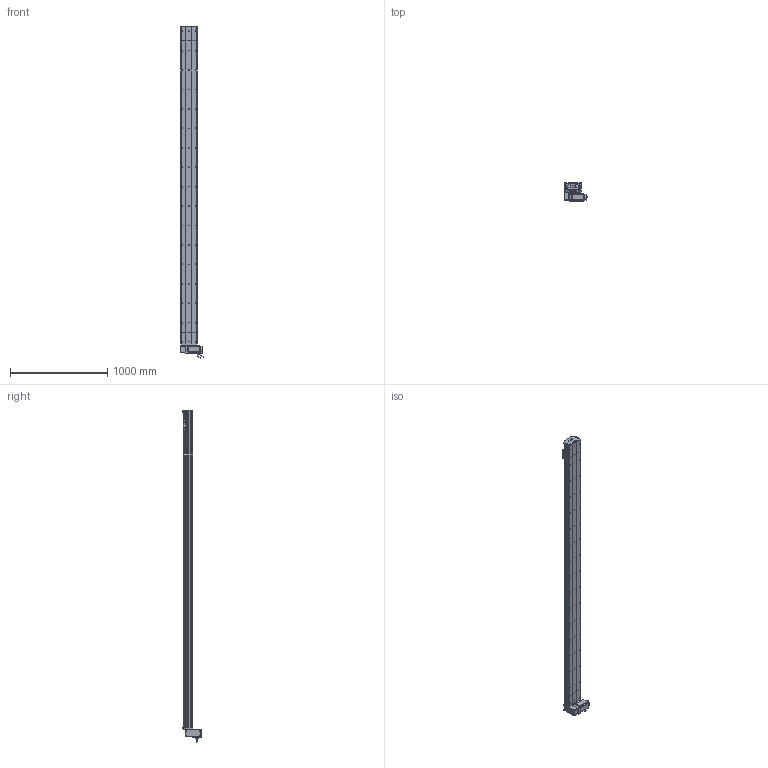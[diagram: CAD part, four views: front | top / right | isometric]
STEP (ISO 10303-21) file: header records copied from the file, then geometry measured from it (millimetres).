
FILE_DESCRIPTION (( 'STEP AP214' ), '1' );
FILE_NAME ('D17 TBN RU S3000.STEP', '2010-06-30T13:22:39', ( 'Conseil Régional Haute-Normandie' ), ( 'Conseil Régional Haute-Normandie' ), 'SwSTEP 2.0', 'SolidWorks 2010', '' );
FILE_SCHEMA (( 'AUTOMOTIVE_DESIGN' ));
Length unit declared in the file: millimetre
Products named in the file (40): D17 TBN RU S3000; guide D17; Chariot D17 TBN; chariot D17 TBN; vis M5 L25_Default; vis M5 L12_Default; vis M5 L8 90°_Default; plaque de  bout tail D17B_Default; Rail D17B; tete d''axe poulie D17B; couvercle D17B_Default; Couroie tail D17B_Default; poulie tail_Default; corpl tail D17B_Default; Tail D17B_Default; Renvoi RU_Default; Vis M5 L16-2_Default; cache arbre D17_Default; corp D17B 3000_Default; Couroie+ rail D17 Course 3000 ; course 3000 D17B_Default; couvercle D17B head_Default; corpl head D17 _Default; Head RU D17B_Default; couvercle D17B course L3000_Default; Arbre+rail head D17B; plaque de  bout head D17B RU_Default; couroie head D17_Default; poulie head_Default; vis M5 L5_Default; cache D17_Default; corps 90BLDC125A-640; avant 90BLDC125A-640; Moteur motionking 90BLDC125A-640; Conecteur_Default; Conecteur2_Default; codeur 90BLDC125-640; vis M5 L16_Default; Plaque racord D17_Default; vis M5 L70_Default
Assembly tree (66 placements, depth 4):
  D17 TBN RU S3000
    Head RU D17B_Default
      vis M5 L5_Default  x4
      vis M5 L70_Default  x4
      vis M5 L12_Default  x8
      vis M5 L25_Default  x2
      cache D17_Default  x2
      Vis M5 L16-2_Default  x4
      Plaque racord D17_Default
      couroie head D17_Default
      vis M5 L16_Default  x2
      couvercle D17B head_Default
      corpl head D17 _Default
      poulie head_Default
      plaque de  bout head D17B RU_Default
      Renvoi RU_Default
      cache arbre D17_Default
      Arbre+rail head D17B
      Moteur motionking 90BLDC125A-640
        codeur 90BLDC125-640
        corps 90BLDC125A-640
        avant 90BLDC125A-640
        Conecteur_Default
        Conecteur2_Default
    course 3000 D17B_Default
      corp D17B 3000_Default
      couvercle D17B course L3000_Default
      Couroie+ rail D17 Course 3000 
    Tail D17B_Default
      vis M5 L8 90°_Default  x2
      couvercle D17B_Default
      vis M5 L12_Default  x4
      Rail D17B
      vis M5 L25_Default  x2
      plaque de  bout tail D17B_Default
      tete d''axe poulie D17B
      corpl tail D17B_Default
      Couroie tail D17B_Default
      poulie tail_Default
    chariot D17 TBN
      Chariot D17 TBN
      guide D17  x2
Bounding box: 245.2 x 188.65 x 3417.95 mm (x, y, z)
Volume: 19318758.7 mm3; surface area: 5646831.5 mm2
Topology: 89 solids, 89 shells, 2651 faces, 6825 edges, 4398 vertices
Faces by surface type: plane 1533, cylinder 821, bspline 136, cone 80, torus 77, sphere 4
Entity records: 86411 total; most frequent: CARTESIAN_POINT 25599, ORIENTED_EDGE 10822, DIRECTION 10212, EDGE_CURVE 5411, VERTEX_POINT 3542, LINE 3522, VECTOR 3522, AXIS2_PLACEMENT_3D 3345
